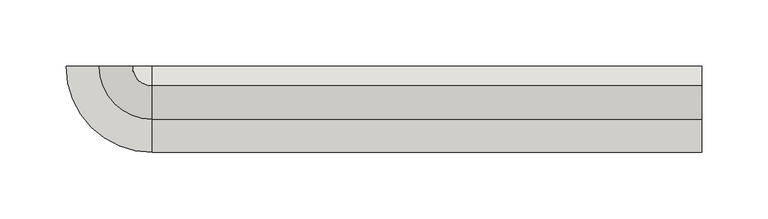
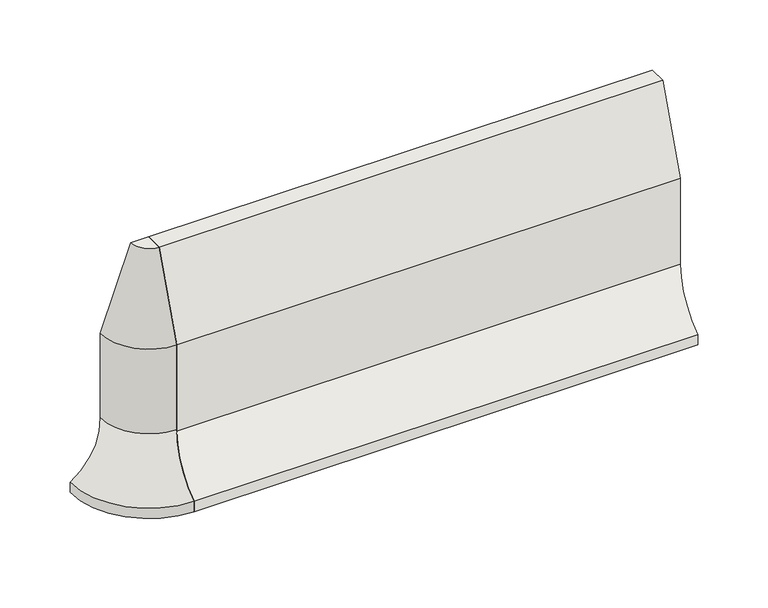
"""IFC4 building model written with IfcOpenShell, lengths in millimetres: wall geometry, GM_PC_UN_ACO kerb PB outside corner_ACO : PB H200 plain."""

import ifcopenshell
import ifcopenshell.guid

model = None  # the IFC model being written
_history = None  # IfcOwnerHistory: only IFC2X3 demands one
_inside = {}  # id of a spatial element -> (the spatial element, [elements in it])
_under = {}  # id of a project, library or spatial element -> (it, [spatial elements below it])
_declared = {}  # id of a project -> (the project, [libraries it declares])
_typed = {}  # id of a type object -> (the type object, [elements of that type])
_made_of = {}  # id of a material, layer set ... -> (it, [elements and type objects made of it])


def new_model(schema):
    """Start an empty IFC model of exactly this schema.

    Asked for "IFC4X3", IfcOpenShell would pick the latest addendum, in which some entities
    have other attributes; the version numbers below select the first issue.
    IFC2X3 requires an IfcOwnerHistory on every rooted entity: one is made here for all.
    """
    global model, _history
    if schema == "IFC4X3":
        model = ifcopenshell.file(schema_version=(4, 3, 0, 0))
    else:
        model = ifcopenshell.file(schema=schema)
    _inside.clear()
    _under.clear()
    _declared.clear()
    _typed.clear()
    _made_of.clear()
    _history = None
    if model.schema == "IFC2X3":
        org = make("IfcOrganization", Name="unknown")
        user = make(
            "IfcPersonAndOrganization",
            ThePerson=make("IfcPerson", FamilyName="unknown"),
            TheOrganization=org,
        )
        app = make(
            "IfcApplication",
            ApplicationDeveloper=org,
            Version="unknown",
            ApplicationFullName="unknown",
            ApplicationIdentifier="unknown",
        )
        _history = make(
            "IfcOwnerHistory",
            OwningUser=user,
            OwningApplication=app,
            ChangeAction="ADDED",
            CreationDate=0,
        )
    return model


def make(cls, **values):
    """One entity of the class cls with the attributes given. An attribute that is None is left unset."""
    return model.create_entity(
        cls, **{name: value for name, value in values.items() if value is not None}
    )


def rooted(cls, **values):
    """An entity with a GlobalId (a new one), such as an element, a storey or a relation."""
    return make(cls, GlobalId=ifcopenshell.guid.new(), OwnerHistory=_history, **values)


def si_unit(unit_type, name, prefix=None):
    """IfcSIUnit, for example si_unit("LENGTHUNIT", "METRE", prefix="MILLI")."""
    return make("IfcSIUnit", UnitType=unit_type, Prefix=prefix, Name=name)


def assignment(units):
    """IfcUnitAssignment: the units of a project."""
    return None if units is None else make("IfcUnitAssignment", Units=units)


def point(xyz):
    """IfcCartesianPoint."""
    return None if xyz is None else make("IfcCartesianPoint", Coordinates=xyz)


def direction(xyz):
    """IfcDirection."""
    return None if xyz is None else make("IfcDirection", DirectionRatios=xyz)


def frame(location, z_axis=None, x_axis=None):
    """IfcAxis2Placement3D, a coordinate frame: its origin and axes. An axis left out is left unset."""
    return make(
        "IfcAxis2Placement3D",
        Location=point(location),
        Axis=direction(z_axis),
        RefDirection=direction(x_axis),
    )


def frame_2d(location, x_axis=None):
    """IfcAxis2Placement2D, a coordinate frame in the plane: its origin and x axis."""
    return make(
        "IfcAxis2Placement2D", Location=point(location), RefDirection=direction(x_axis)
    )


def origin():
    """The frame at (0, 0, 0) with its axes left unset."""
    return frame((0.0, 0.0, 0.0))


def place(relative_to, where):
    """IfcLocalPlacement: puts the frame where relative to a parent placement (None: the world)."""
    return make(
        "IfcLocalPlacement", PlacementRelTo=relative_to, RelativePlacement=where
    )


def context(
    kind, dimensions, precision=None, world=None, true_north=None, identifier=None
):
    """IfcGeometricRepresentationContext, for example the 3D "Model" context."""
    return make(
        "IfcGeometricRepresentationContext",
        ContextIdentifier=identifier,
        ContextType=kind,
        CoordinateSpaceDimension=dimensions,
        Precision=precision,
        WorldCoordinateSystem=world,
        TrueNorth=true_north,
    )


def project(units=None, contexts=None):
    """IfcProject with its units and contexts."""
    return rooted(
        "IfcProject",
        Name="project",
        RepresentationContexts=contexts,
        UnitsInContext=assignment(units),
    )


def spatial(cls, under=None, at=None, **own):
    """A site, building, storey or space (cls), placed at a placement, below another one or the project."""
    s = rooted(cls, ObjectPlacement=at, **own)
    if under is not None:
        _under.setdefault(under.id(), (under, []))[1].append(s)
    return s


def polyline(points):
    """IfcPolyline through the points."""
    return make("IfcPolyline", Points=[point(p) for p in points])


def circle_curve(where, radius):
    """IfcCircle in the frame where."""
    return make("IfcCircle", Position=where, Radius=radius)


def ellipse_curve(where, semi_axis1, semi_axis2):
    """IfcEllipse in the frame where."""
    return make(
        "IfcEllipse", Position=where, SemiAxis1=semi_axis1, SemiAxis2=semi_axis2
    )


def trimmed(basis, trim1, trim2, sense, master):
    """IfcTrimmedCurve: the piece of a basis curve between two trims."""
    return make(
        "IfcTrimmedCurve",
        BasisCurve=basis,
        Trim1=trim1,
        Trim2=trim2,
        SenseAgreement=sense,
        MasterRepresentation=master,
    )


def segment(curve, same_sense, transition):
    """IfcCompositeCurveSegment."""
    return make(
        "IfcCompositeCurveSegment",
        Transition=transition,
        SameSense=same_sense,
        ParentCurve=curve,
    )


def composite_curve(segments, self_intersect=None):
    """IfcCompositeCurve: segments joined end to end."""
    return make("IfcCompositeCurve", Segments=segments, SelfIntersect=self_intersect)


def outline(outer, holes=None, kind="AREA"):
    """IfcArbitraryClosedProfileDef: a profile drawn as a closed curve; with holes, ...WithVoids."""
    if holes is None:
        return make("IfcArbitraryClosedProfileDef", ProfileType=kind, OuterCurve=outer)
    return make(
        "IfcArbitraryProfileDefWithVoids",
        ProfileType=kind,
        OuterCurve=outer,
        InnerCurves=holes,
    )


def extrude(swept, where, along, depth):
    """IfcExtrudedAreaSolid: the profile swept, set in the frame where, extruded along a direction by depth."""
    return make(
        "IfcExtrudedAreaSolid",
        SweptArea=swept,
        Position=where,
        ExtrudedDirection=direction(along),
        Depth=depth,
    )


def shape(context_of_items, identifier, shape_type, items):
    """IfcShapeRepresentation: the items that make up one representation, for example the "Body"."""
    return make(
        "IfcShapeRepresentation",
        ContextOfItems=context_of_items,
        RepresentationIdentifier=identifier,
        RepresentationType=shape_type,
        Items=items,
    )


def source(mapping_origin, context_of_items, identifier, shape_type, items):
    """IfcRepresentationMap: a shape defined once, which mapped items show again and again."""
    return make(
        "IfcRepresentationMap",
        MappingOrigin=mapping_origin,
        MappedRepresentation=shape(context_of_items, identifier, shape_type, items),
    )


def transform(
    local_origin,
    x_axis=None,
    y_axis=None,
    z_axis=None,
    scale=None,
    scale2=None,
    scale3=None,
    uniform=True,
):
    """IfcCartesianTransformationOperator3D, or its non-uniform kind. x_axis, y_axis, z_axis: its Axis1, 2, 3."""
    if uniform:
        return make(
            "IfcCartesianTransformationOperator3D",
            Axis1=direction(x_axis),
            Axis2=direction(y_axis),
            LocalOrigin=point(local_origin),
            Scale=scale,
            Axis3=direction(z_axis),
        )
    return make(
        "IfcCartesianTransformationOperator3DnonUniform",
        Axis1=direction(x_axis),
        Axis2=direction(y_axis),
        LocalOrigin=point(local_origin),
        Scale=scale,
        Axis3=direction(z_axis),
        Scale2=scale2,
        Scale3=scale3,
    )


def mapped(mapping_source, mapping_target):
    """IfcMappedItem: shows the shape of a source again, moved by a transform."""
    return make(
        "IfcMappedItem", MappingSource=mapping_source, MappingTarget=mapping_target
    )


def made_of(thing, what):
    """Note that an element or type object is made of a material, layer set ...; save() writes the relation."""
    if what is not None:
        _made_of.setdefault(what.id(), (what, []))[1].append(thing)
    return thing


def element(
    cls,
    number,
    at=None,
    inside=None,
    cuts=None,
    type_object=None,
    material=None,
    context=None,
    identifier="Body",
    shape_type=None,
    held_by="IfcProductDefinitionShape",
    body=None,
    shapes=None,
    **own,
):
    """One element of the class cls, such as IfcWall. Its Tag is "e" and its number.

    at: its placement. inside: the storey or other place that contains it. cuts: it is an
    opening in that element (IfcRelVoidsElement). A single representation is given by context,
    identifier, shape_type and body (its items); several are given by shapes. held_by: the class
    of the entity that holds the representations. save() writes the other relations.
    """
    e = rooted(cls, Tag="e%d" % number, ObjectPlacement=at, **own)
    if body is not None:
        shapes = [shape(context, identifier, shape_type, body)]
    if shapes is not None:
        e.Representation = make(held_by, Representations=shapes)
    if inside is not None:
        _inside.setdefault(inside.id(), (inside, []))[1].append(e)
    if cuts is not None:
        rooted(
            "IfcRelVoidsElement", RelatingBuildingElement=cuts, RelatedOpeningElement=e
        )
    if type_object is not None:
        _typed.setdefault(type_object.id(), (type_object, []))[1].append(e)
    return made_of(e, material)


def aggregate(whole, parts):
    """IfcRelAggregates: a whole, such as a stair, and the parts it consists of."""
    return rooted("IfcRelAggregates", RelatingObject=whole, RelatedObjects=parts)


def save(model, path):
    """Write the relations noted so far, then the file.

    IfcRelAggregates (storeys below a building ...), IfcRelContainedInSpatialStructure (elements
    in a storey), IfcRelDefinesByType, IfcRelAssociatesMaterial and IfcRelDeclares: one each for
    every whole, place, type object, material and project.
    """
    for whole, parts in _under.values():
        aggregate(whole, parts)
    for where, things in _inside.values():
        rooted(
            "IfcRelContainedInSpatialStructure",
            RelatedElements=things,
            RelatingStructure=where,
        )
    for kind, things in _typed.values():
        rooted("IfcRelDefinesByType", RelatedObjects=things, RelatingType=kind)
    for what, things in _made_of.values():
        rooted("IfcRelAssociatesMaterial", RelatedObjects=things, RelatingMaterial=what)
    for by, libraries in _declared.values():
        rooted("IfcRelDeclares", RelatingContext=by, RelatedDefinitions=libraries)
    model.write(path)


def plane_surface(at):
    """IfcPlane: the flat surface through the origin of the frame at, square to its z axis."""
    return make("IfcPlane", Position=at)


def cylinder_surface(at, radius):
    """IfcCylindricalSurface: all points at the distance radius from the z axis of the frame at."""
    return make("IfcCylindricalSurface", Position=at, Radius=radius)


def revolved_surface(curve, axis_point, axis_direction):
    """IfcSurfaceOfRevolution: the curve turned about the line through axis_point along axis_direction."""
    return make(
        "IfcSurfaceOfRevolution",
        SweptCurve=make("IfcArbitraryOpenProfileDef", ProfileType="CURVE", Curve=curve),
        AxisPosition=make("IfcAxis1Placement", Location=point(axis_point), Axis=direction(axis_direction)),
    )


def advanced_brep(points, edges, surfaces, faces):
    """IfcAdvancedBrep: a solid bounded by faces that lie on surfaces and meet in shared edges.

    An edge is (start, end): straight between two places in points (the first is 0);
    or (start, end, curve); or (start, end, curve, False) where it runs against its curve.
    A face is (place in surfaces, loops), or (place, loops, False) where it looks against
    its surface's normal. A loop lists edges by number (the first is 1), with a minus sign
    where the edge is run from its end to its start. The first loop is the outer one.
    """
    corners = [point(p) for p in points]
    vertices = [make("IfcVertexPoint", VertexGeometry=c) for c in corners]
    made = []
    for start, end, *more in edges:
        made.append(
            make(
                "IfcEdgeCurve",
                EdgeStart=vertices[start],
                EdgeEnd=vertices[end],
                EdgeGeometry=more[0] if more else make("IfcPolyline", Points=[corners[start], corners[end]]),
                SameSense=more[1] if len(more) > 1 else True,
            )
        )
    hull = []
    for where, loops, *sense in faces:
        bounds = []
        for j, loop in enumerate(loops):
            ring = [make("IfcOrientedEdge", EdgeElement=made[abs(k) - 1], Orientation=k > 0) for k in loop]
            bounds.append(
                make(
                    "IfcFaceOuterBound" if j == 0 else "IfcFaceBound",
                    Bound=make("IfcEdgeLoop", EdgeList=ring),
                    Orientation=True,
                )
            )
        hull.append(make("IfcAdvancedFace", Bounds=bounds, FaceSurface=surfaces[where], SameSense=sense[0] if sense else True))
    return make("IfcAdvancedBrep", Outer=make("IfcClosedShell", CfsFaces=hull))


def wall_3654c08e(model_context):
    return source(origin(), model_context, "Body", "SolidModel", [
        extrude(outline(composite_curve([segment(polyline([(-40.0039527, 130.0277035), (-14.8642318, 200.0), (0.0, 200.0), (0.0, 0.0), (-65.0, 0.0), (-65.0, 8.9205197)]), True, "CONTINUOUS"), segment(trimmed(circle_curve(frame_2d((-94.2239515, 54.592465)), 54.2214526), [point((-65.0, 8.9205197))], [point((-40.0039527, 54.9895287))], True, "CARTESIAN"), True, "CONTINUOUS"), segment(polyline([(-40.0039527, 54.9895287), (-40.0039527, 130.0277035)]), True, "CONTINUOUS")], self_intersect=False)), frame((0.0, 0.0, 0.0), z_axis=(1.0, 0.0, 0.0), x_axis=(0.0, 1.0, 0.0)), (0.0, 0.0, 1.0), 415.0),
        advanced_brep(
        [(-40.0039527, 0.0, 130.0079616), (-14.8571389, 0.0, 200.0), (0.0, 0.0, 200.0), (0.0, 0.0, 0.0), (-65.0, 0.0, 0.0), (-65.0, 0.0, 8.9062534), (-40.0039527, 0.0, 56.1975261), (0.0, -40.0039527, 130.0079616), (0.0, -40.0039527, 56.1975261), (0.0, -65.0, 8.9062534), (0.0, -65.0, 0.0), (0.0, -14.8571389, 200.0)],
        [
            (0, 1),
            (1, 2),
            (2, 3),
            (3, 4),
            (4, 5),
            (5, 6, circle_curve(frame((-94.2016436, 0.0, 54.592465), z_axis=(0.0, -1.0000000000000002, 0.0), x_axis=(-1.0000000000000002, 0.0, 0.0)), 54.2214526)),
            (6, 0),
            (7, 8),
            (8, 9, circle_curve(frame((0.0, -94.2016436, 54.592465), z_axis=(-1.0000000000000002, 0.0, 0.0), x_axis=(0.0, -1.0000000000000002, 0.0)), 54.2214526)),
            (9, 10),
            (10, 3),
            (2, 11),
            (11, 7),
            (11, 1, circle_curve(frame((0.0, 0.0, 200.0), z_axis=(0.0, 0.0, -1.0), x_axis=(-1.0000000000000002, 0.0, 0.0)), 14.8571389)),
            (0, 7, circle_curve(frame((0.0, 0.0, 130.0079616), z_axis=(0.0, 0.0, 1.0), x_axis=(-1.0000000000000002, 0.0, 0.0)), 40.0039527)),
            (10, 4, circle_curve(frame((0.0, 0.0, 0.0), z_axis=(0.0, 0.0, -1.0), x_axis=(-1.0000000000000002, 0.0, 0.0)), 65.0)),
            (9, 5, circle_curve(frame((0.0, 0.0, 8.9062534), z_axis=(0.0, 0.0, -1.0), x_axis=(-1.0000000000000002, 0.0, 0.0)), 65.0)),
            (8, 6, circle_curve(frame((0.0, 0.0, 56.1975261), z_axis=(0.0, 0.0, -1.0), x_axis=(-1.0000000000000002, 0.0, 0.0)), 40.0039527)),
        ],
        [
            plane_surface(frame((0.0, 0.0, 1459.9802581), z_axis=(0.0, 1.0, 0.0), x_axis=(-1.0, 0.0, 0.0))),
            plane_surface(frame((0.0, 0.0, 1459.9802581), z_axis=(1.0, 0.0, 0.0), x_axis=(0.0, -1.0, 0.0))),
            revolved_surface(polyline([(-40.0039527, 0.0, 130.0079616), (-14.8571389, 0.0, 200.0)]), (0.0, 0.0, 1459.9802581), (0.0, 0.0, 1.0)),
            plane_surface(frame((0.0, 0.0, 200.0), z_axis=(0.0, 0.0, 1.0), x_axis=(-1.0, 0.0, 0.0))),
            plane_surface(frame((0.0, 0.0, 0.0), z_axis=(0.0, 0.0, -1.0), x_axis=(-1.0, 0.0, 0.0))),
            cylinder_surface(frame((0.0, 0.0, 1459.9802581), z_axis=(0.0, 0.0, 1.0), x_axis=(-1.0000000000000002, 0.0, 0.0)), 65.0),
            revolved_surface(trimmed(ellipse_curve(frame((-94.2016436, 0.0, 54.592465), z_axis=(0.0, -1.0000000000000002, 0.0), x_axis=(-1.0000000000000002, 0.0, 0.0)), 54.2214526, 54.2214526), [point((-65.0, 0.0, 8.9062534))], [point((-40.0039527, 0.0, 56.1975261))], True, "CARTESIAN"), (0.0, 0.0, 1459.9802581), (0.0, 0.0, 1.0)),
            cylinder_surface(frame((0.0, 0.0, 1459.9802581), z_axis=(0.0, 0.0, 1.0), x_axis=(-1.0000000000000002, 0.0, 0.0)), 40.0039527),
        ],
        [
            (0, [[1, 2, 3, 4, 5, 6, 7]]),
            (1, [[8, 9, 10, 11, -3, 12, 13]]),
            (2, [[14, -1, 15, -13]]),
            (3, [[-2, -14, -12]]),
            (4, [[16, -4, -11]]),
            (5, [[17, -5, -16, -10]]),
            (6, [[18, -6, -17, -9]]),
            (7, [[-15, -7, -18, -8]]),
        ],
    ),
    ])


if __name__ == "__main__":
    model = new_model("IFC4")
    model_context = context("Model", 3, world=origin())
    ifc_project = project(units=[si_unit("LENGTHUNIT", "METRE", prefix="MILLI")], contexts=[model_context])
    site = spatial("IfcSite", under=ifc_project)
    building = spatial("IfcBuilding", under=site)
    placement = place(None, origin())
    wall_shape = wall_3654c08e(model_context)
    element("IfcWall", 1, ObjectType="GM_PC_UN_ACO kerb PB outside corner_ACO : PB H200 plain", at=placement, inside=building, context=model_context, shape_type="MappedRepresentation", body=[
        mapped(wall_shape, transform((0.0, 0.0, 0.0), x_axis=(1.0, 0.0, 0.0), y_axis=(0.0, 1.0, 0.0), z_axis=(0.0, 0.0, 1.0))),
    ])
    save(model, "model.ifc")
